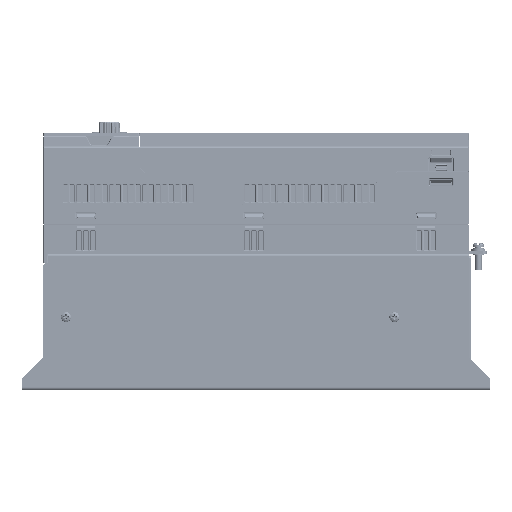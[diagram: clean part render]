
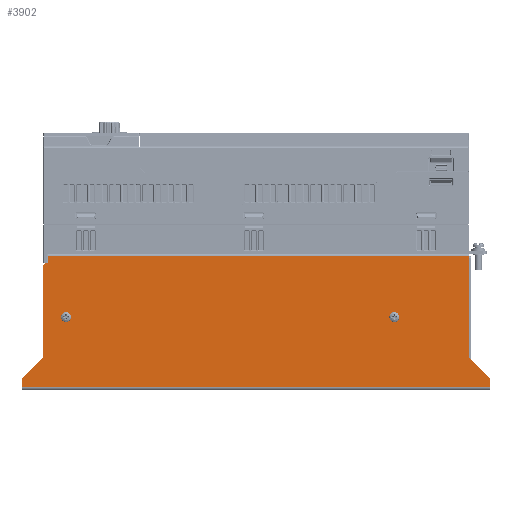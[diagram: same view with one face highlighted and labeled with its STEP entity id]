
A CAD part, left-side view. The second image highlights one B-rep face of the part: STEP entity #3902.
In plain terms, the highlighted planar face has unit normal (-1, 0, 0).
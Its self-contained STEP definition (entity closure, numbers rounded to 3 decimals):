
#633=CARTESIAN_POINT('',(-77.5,-16.,51.2));
#634=DIRECTION('',(-1.,0.,0.));
#635=DIRECTION('',(0.,-1.,0.));
#636=AXIS2_PLACEMENT_3D('',#633,#634,#635);
#638=CARTESIAN_POINT('',(-77.5,-16.,51.2));
#639=DIRECTION('',(-1.,0.,0.));
#640=DIRECTION('',(0.,1.,0.));
#641=AXIS2_PLACEMENT_3D('',#638,#639,#640);
#643=CARTESIAN_POINT('',(-77.5,-247.5,51.2));
#644=DIRECTION('',(-1.,0.,0.));
#645=DIRECTION('',(0.,-1.,0.));
#646=AXIS2_PLACEMENT_3D('',#643,#644,#645);
#648=CARTESIAN_POINT('',(-77.5,-247.5,51.2));
#649=DIRECTION('',(-1.,0.,0.));
#650=DIRECTION('',(0.,1.,0.));
#651=AXIS2_PLACEMENT_3D('',#648,#649,#650);
#653=CARTESIAN_POINT('',(-77.5,-1.5,87.5));
#654=DIRECTION('',(-1.,0.,0.));
#655=DIRECTION('',(0.,0.,1.));
#656=AXIS2_PLACEMENT_3D('',#653,#654,#655);
#658=DIRECTION('',(0.,1.,0.));
#659=VECTOR('',#658,1.5);
#660=CARTESIAN_POINT('',(-77.5,-3.,89.));
#661=LINE('',#660,#659);
#662=DIRECTION('',(0.,0.,-1.));
#663=VECTOR('',#662,5.2);
#664=CARTESIAN_POINT('',(-77.5,-3.,94.2));
#665=LINE('',#664,#663);
#666=DIRECTION('',(0.,-1.,0.));
#667=VECTOR('',#666,297.);
#668=CARTESIAN_POINT('',(-77.5,-3.,94.2));
#669=LINE('',#668,#667);
#670=DIRECTION('',(0.,0.,1.));
#671=VECTOR('',#670,70.472);
#672=CARTESIAN_POINT('',(-77.5,-300.,23.728));
#673=LINE('',#672,#671);
#674=DIRECTION('',(0.,0.707,0.707));
#675=VECTOR('',#674,19.556);
#676=CARTESIAN_POINT('',(-77.5,-314.414,8.486));
#677=LINE('',#676,#675);
#678=CARTESIAN_POINT('',(-77.5,-313.,7.072));
#679=DIRECTION('',(-1.,0.,0.));
#680=DIRECTION('',(0.,-1.,0.));
#681=AXIS2_PLACEMENT_3D('',#678,#679,#680);
#683=DIRECTION('',(0.,-1.,0.));
#684=VECTOR('',#683,330.);
#685=CARTESIAN_POINT('',(-77.5,15.,1.7));
#686=LINE('',#685,#684);
#687=CARTESIAN_POINT('',(-77.5,13.,7.072));
#688=DIRECTION('',(-1.,0.,0.));
#689=DIRECTION('',(0.,0.707,0.707));
#690=AXIS2_PLACEMENT_3D('',#687,#688,#689);
#692=DIRECTION('',(0.,0.707,-0.707));
#693=VECTOR('',#692,19.556);
#694=CARTESIAN_POINT('',(-77.5,0.586,22.314));
#695=LINE('',#694,#693);
#696=DIRECTION('',(0.,0.,1.));
#697=VECTOR('',#696,63.772);
#698=CARTESIAN_POINT('',(-77.5,0.,23.728));
#699=LINE('',#698,#697);
#720=CARTESIAN_POINT('',(-77.5,2.,23.728));
#721=DIRECTION('',(1.,0.,0.));
#722=DIRECTION('',(0.,-1.,0.));
#723=AXIS2_PLACEMENT_3D('',#720,#721,#722);
#742=DIRECTION('',(0.,0.,1.));
#743=VECTOR('',#742,5.372);
#744=CARTESIAN_POINT('',(-77.5,15.,1.7));
#745=LINE('',#744,#743);
#1018=DIRECTION('',(0.,0.,1.));
#1019=VECTOR('',#1018,5.372);
#1020=CARTESIAN_POINT('',(-77.5,-315.,1.7));
#1021=LINE('',#1020,#1019);
#1030=CARTESIAN_POINT('',(-77.5,-302.,23.728));
#1031=DIRECTION('',(1.,0.,0.));
#1032=DIRECTION('',(0.,0.707,-0.707));
#1033=AXIS2_PLACEMENT_3D('',#1030,#1031,#1032);
#2394=CARTESIAN_POINT('',(-77.5,15.,1.7));
#2396=VERTEX_POINT('',#2394);
#2398=CARTESIAN_POINT('',(-77.5,-315.,1.7));
#2399=VERTEX_POINT('',#2398);
#2414=CARTESIAN_POINT('',(-77.5,-300.,94.2));
#2416=VERTEX_POINT('',#2414);
#2458=CARTESIAN_POINT('',(-77.5,-18.,51.2));
#2459=CARTESIAN_POINT('',(-77.5,-14.,51.2));
#2460=VERTEX_POINT('',#2458);
#2461=VERTEX_POINT('',#2459);
#2462=CARTESIAN_POINT('',(-77.5,-249.5,51.2));
#2463=CARTESIAN_POINT('',(-77.5,-245.5,51.2));
#2464=VERTEX_POINT('',#2462);
#2465=VERTEX_POINT('',#2463);
#2602=CARTESIAN_POINT('',(-77.5,-3.,94.2));
#2603=CARTESIAN_POINT('',(-77.5,-3.,89.));
#2604=VERTEX_POINT('',#2602);
#2605=VERTEX_POINT('',#2603);
#2654=CARTESIAN_POINT('',(-77.5,0.,23.728));
#2656=VERTEX_POINT('',#2654);
#2658=CARTESIAN_POINT('',(-77.5,0.586,22.314));
#2660=VERTEX_POINT('',#2658);
#2742=CARTESIAN_POINT('',(-77.5,14.414,8.486));
#2743=CARTESIAN_POINT('',(-77.5,15.,7.072));
#2744=VERTEX_POINT('',#2742);
#2745=VERTEX_POINT('',#2743);
#2758=CARTESIAN_POINT('',(-77.5,-300.586,22.314));
#2760=VERTEX_POINT('',#2758);
#2762=CARTESIAN_POINT('',(-77.5,-300.,23.728));
#2764=VERTEX_POINT('',#2762);
#2774=CARTESIAN_POINT('',(-77.5,-315.,7.072));
#2775=CARTESIAN_POINT('',(-77.5,-314.414,8.486));
#2776=VERTEX_POINT('',#2774);
#2777=VERTEX_POINT('',#2775);
#2846=CARTESIAN_POINT('',(-77.5,-1.5,89.));
#2847=CARTESIAN_POINT('',(-77.5,0.,87.5));
#2848=VERTEX_POINT('',#2846);
#2849=VERTEX_POINT('',#2847);
#3855=CARTESIAN_POINT('',(-77.5,15.,0.));
#3856=DIRECTION('',(-1.,0.,0.));
#3857=DIRECTION('',(0.,0.,1.));
#3858=AXIS2_PLACEMENT_3D('',#3855,#3856,#3857);
#3859=PLANE('',#3858);
#3861=ORIENTED_EDGE('',*,*,#3860,.F.);
#3863=ORIENTED_EDGE('',*,*,#3862,.F.);
#3865=ORIENTED_EDGE('',*,*,#3864,.F.);
#3866=ORIENTED_EDGE('',*,*,#3681,.T.);
#3868=ORIENTED_EDGE('',*,*,#3867,.F.);
#3870=ORIENTED_EDGE('',*,*,#3869,.F.);
#3872=ORIENTED_EDGE('',*,*,#3871,.F.);
#3874=ORIENTED_EDGE('',*,*,#3873,.F.);
#3876=ORIENTED_EDGE('',*,*,#3875,.F.);
#3878=ORIENTED_EDGE('',*,*,#3877,.F.);
#3880=ORIENTED_EDGE('',*,*,#3879,.T.);
#3882=ORIENTED_EDGE('',*,*,#3881,.F.);
#3884=ORIENTED_EDGE('',*,*,#3883,.F.);
#3886=ORIENTED_EDGE('',*,*,#3885,.F.);
#3888=ORIENTED_EDGE('',*,*,#3887,.T.);
#3889=EDGE_LOOP('',(#3861,#3863,#3865,#3866,#3868,#3870,#3872,#3874,#3876,#3878,
#3880,#3882,#3884,#3886,#3888));
#3890=FACE_OUTER_BOUND('',#3889,.F.);
#3891=ORIENTED_EDGE('',*,*,#3845,.T.);
#3893=ORIENTED_EDGE('',*,*,#3892,.T.);
#3894=EDGE_LOOP('',(#3891,#3893));
#3895=FACE_BOUND('',#3894,.F.);
#3897=ORIENTED_EDGE('',*,*,#3896,.T.);
#3899=ORIENTED_EDGE('',*,*,#3898,.T.);
#3900=EDGE_LOOP('',(#3897,#3899));
#3901=FACE_BOUND('',#3900,.F.);
#3902=ADVANCED_FACE('',(#3890,#3895,#3901),#3859,.T.);
#637=CIRCLE('',#636,2.);
#642=CIRCLE('',#641,2.);
#647=CIRCLE('',#646,2.);
#652=CIRCLE('',#651,2.);
#657=CIRCLE('',#656,1.5);
#682=CIRCLE('',#681,2.);
#691=CIRCLE('',#690,2.);
#724=CIRCLE('',#723,2.);
#1034=CIRCLE('',#1033,2.);
#3681=EDGE_CURVE('',#2604,#2416,#669,.T.);
#3845=EDGE_CURVE('',#2464,#2465,#647,.T.);
#3860=EDGE_CURVE('',#2848,#2849,#657,.T.);
#3862=EDGE_CURVE('',#2605,#2848,#661,.T.);
#3864=EDGE_CURVE('',#2604,#2605,#665,.T.);
#3867=EDGE_CURVE('',#2764,#2416,#673,.T.);
#3869=EDGE_CURVE('',#2760,#2764,#1034,.T.);
#3871=EDGE_CURVE('',#2777,#2760,#677,.T.);
#3873=EDGE_CURVE('',#2776,#2777,#682,.T.);
#3875=EDGE_CURVE('',#2399,#2776,#1021,.T.);
#3877=EDGE_CURVE('',#2396,#2399,#686,.T.);
#3879=EDGE_CURVE('',#2396,#2745,#745,.T.);
#3881=EDGE_CURVE('',#2744,#2745,#691,.T.);
#3883=EDGE_CURVE('',#2660,#2744,#695,.T.);
#3885=EDGE_CURVE('',#2656,#2660,#724,.T.);
#3887=EDGE_CURVE('',#2656,#2849,#699,.T.);
#3892=EDGE_CURVE('',#2465,#2464,#652,.T.);
#3896=EDGE_CURVE('',#2460,#2461,#637,.T.);
#3898=EDGE_CURVE('',#2461,#2460,#642,.T.);
